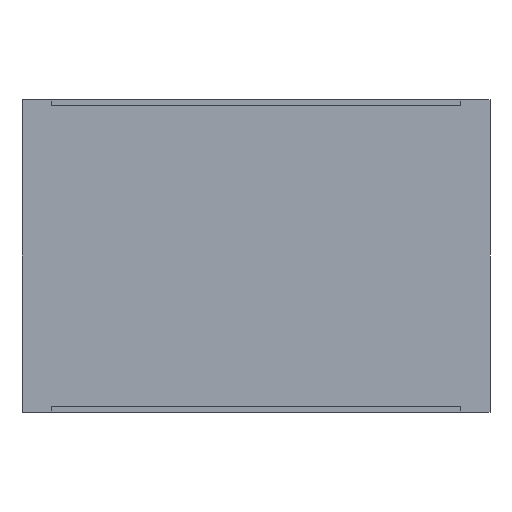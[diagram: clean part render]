
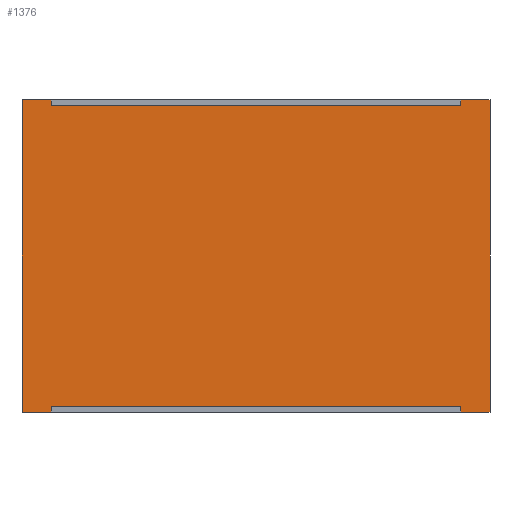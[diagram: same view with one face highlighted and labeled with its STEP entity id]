
A CAD part, front view. The second image highlights one B-rep face of the part: STEP entity #1376.
In plain terms, the highlighted planar face has unit normal (0, -1, 0).
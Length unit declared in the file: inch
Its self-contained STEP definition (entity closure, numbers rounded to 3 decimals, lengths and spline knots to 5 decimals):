
#3 = CARTESIAN_POINT ( 'NONE',  ( 1.47, 0., 0.3 ) ) ;
#4 = EDGE_CURVE ( 'NONE', #1760, #1749, #1766, .T. ) ;
#15 = DIRECTION ( 'NONE',  ( 0., 1., 0. ) ) ;
#28 = EDGE_CURVE ( 'NONE', #324, #1749, #850, .T. ) ;
#50 = CARTESIAN_POINT ( 'NONE',  ( 1.47, 0., 15.75 ) ) ;
#60 = CARTESIAN_POINT ( 'NONE',  ( 0., 0., 15.75 ) ) ;
#63 = DIRECTION ( 'NONE',  ( -1., 0., 0. ) ) ;
#76 = DIRECTION ( 'NONE',  ( 0., 0., -1. ) ) ;
#79 = VECTOR ( 'NONE', #602, 39.37008 ) ;
#112 = EDGE_CURVE ( 'NONE', #1516, #893, #1165, .T. ) ;
#132 = EDGE_CURVE ( 'NONE', #1230, #324, #672, .T. ) ;
#139 = EDGE_CURVE ( 'NONE', #731, #1760, #593, .T. ) ;
#145 = CARTESIAN_POINT ( 'NONE',  ( 1.47, 0., 15.45 ) ) ;
#152 = CARTESIAN_POINT ( 'NONE',  ( 0., 0., 0. ) ) ;
#158 = EDGE_CURVE ( 'NONE', #1665, #1643, #1786, .T. ) ;
#168 = VECTOR ( 'NONE', #1131, 39.37008 ) ;
#189 = LINE ( 'NONE', #145, #1472 ) ;
#205 = VERTEX_POINT ( 'NONE', #282 ) ;
#217 = EDGE_CURVE ( 'NONE', #1665, #893, #408, .T. ) ;
#247 = DIRECTION ( 'NONE',  ( 1., 0., 0. ) ) ;
#248 = EDGE_CURVE ( 'NONE', #1516, #884, #2042, .T. ) ;
#281 = ORIENTED_EDGE ( 'NONE', *, *, #638, .F. ) ;
#282 = CARTESIAN_POINT ( 'NONE',  ( 22.15, 0., 0. ) ) ;
#303 = EDGE_CURVE ( 'NONE', #884, #1697, #189, .T. ) ;
#320 = CARTESIAN_POINT ( 'NONE',  ( 0., 0., 0. ) ) ;
#324 = VERTEX_POINT ( 'NONE', #152 ) ;
#374 = EDGE_CURVE ( 'NONE', #1230, #1697, #422, .T. ) ;
#385 = ORIENTED_EDGE ( 'NONE', *, *, #303, .T. ) ;
#408 = LINE ( 'NONE', #1713, #771 ) ;
#422 = LINE ( 'NONE', #1203, #1243 ) ;
#456 = EDGE_CURVE ( 'NONE', #731, #205, #2032, .T. ) ;
#458 = CARTESIAN_POINT ( 'NONE',  ( 23.62, 0., 7.875 ) ) ;
#532 = CARTESIAN_POINT ( 'NONE',  ( 22.15, 0., 15.45 ) ) ;
#593 = LINE ( 'NONE', #1806, #921 ) ;
#602 = DIRECTION ( 'NONE',  ( 0., 0., -1. ) ) ;
#638 = EDGE_CURVE ( 'NONE', #1643, #205, #2012, .T. ) ;
#641 = CARTESIAN_POINT ( 'NONE',  ( 0., 0., 7.875 ) ) ;
#650 = CARTESIAN_POINT ( 'NONE',  ( 22.15, 0., 15.75 ) ) ;
#664 = ORIENTED_EDGE ( 'NONE', *, *, #132, .T. ) ;
#672 = LINE ( 'NONE', #641, #168 ) ;
#711 = FACE_OUTER_BOUND ( 'NONE', #2034, .T. ) ;
#731 = VERTEX_POINT ( 'NONE', #1204 ) ;
#738 = DIRECTION ( 'NONE',  ( 0., 0., 1. ) ) ;
#771 = VECTOR ( 'NONE', #2006, 39.37008 ) ;
#836 = CARTESIAN_POINT ( 'NONE',  ( 1.47, 0., 15.45 ) ) ;
#850 = LINE ( 'NONE', #320, #1295 ) ;
#884 = VERTEX_POINT ( 'NONE', #953 ) ;
#893 = VERTEX_POINT ( 'NONE', #650 ) ;
#921 = VECTOR ( 'NONE', #1520, 39.37008 ) ;
#922 = CARTESIAN_POINT ( 'NONE',  ( 0., 0., 7.875 ) ) ;
#953 = CARTESIAN_POINT ( 'NONE',  ( 1.47, 0., 15.45 ) ) ;
#1021 = DIRECTION ( 'NONE',  ( -1., 0., 0. ) ) ;
#1078 = AXIS2_PLACEMENT_3D ( 'NONE', #922, #15, #1113 ) ;
#1090 = ORIENTED_EDGE ( 'NONE', *, *, #248, .T. ) ;
#1091 = DIRECTION ( 'NONE',  ( 0., 0., -1. ) ) ;
#1094 = VECTOR ( 'NONE', #2021, 39.37008 ) ;
#1113 = DIRECTION ( 'NONE',  ( 0., 0., 1. ) ) ;
#1121 = ORIENTED_EDGE ( 'NONE', *, *, #217, .T. ) ;
#1131 = DIRECTION ( 'NONE',  ( 0., 0., -1. ) ) ;
#1148 = CARTESIAN_POINT ( 'NONE',  ( 23.62, 0., 0. ) ) ;
#1165 = LINE ( 'NONE', #1233, #1094 ) ;
#1193 = ORIENTED_EDGE ( 'NONE', *, *, #158, .F. ) ;
#1203 = CARTESIAN_POINT ( 'NONE',  ( 0., 0., 15.75 ) ) ;
#1204 = CARTESIAN_POINT ( 'NONE',  ( 22.15, 0., 0.3 ) ) ;
#1230 = VERTEX_POINT ( 'NONE', #60 ) ;
#1233 = CARTESIAN_POINT ( 'NONE',  ( 22.15, 0., 15.45 ) ) ;
#1243 = VECTOR ( 'NONE', #247, 39.37008 ) ;
#1295 = VECTOR ( 'NONE', #1771, 39.37008 ) ;
#1352 = VECTOR ( 'NONE', #1091, 39.37008 ) ;
#1376 = ADVANCED_FACE ( 'NONE', ( #711 ), #1785, .F. ) ;
#1448 = ORIENTED_EDGE ( 'NONE', *, *, #4, .F. ) ;
#1472 = VECTOR ( 'NONE', #738, 39.37008 ) ;
#1482 = VECTOR ( 'NONE', #76, 39.37008 ) ;
#1516 = VERTEX_POINT ( 'NONE', #532 ) ;
#1520 = DIRECTION ( 'NONE',  ( -1., 0., 0. ) ) ;
#1536 = ORIENTED_EDGE ( 'NONE', *, *, #112, .F. ) ;
#1618 = VECTOR ( 'NONE', #1021, 39.37008 ) ;
#1620 = VECTOR ( 'NONE', #63, 39.37008 ) ;
#1623 = ORIENTED_EDGE ( 'NONE', *, *, #456, .T. ) ;
#1643 = VERTEX_POINT ( 'NONE', #1148 ) ;
#1665 = VERTEX_POINT ( 'NONE', #1725 ) ;
#1666 = ORIENTED_EDGE ( 'NONE', *, *, #28, .T. ) ;
#1675 = CARTESIAN_POINT ( 'NONE',  ( 23.62, 0., 0. ) ) ;
#1692 = CARTESIAN_POINT ( 'NONE',  ( 1.47, 0., 0. ) ) ;
#1697 = VERTEX_POINT ( 'NONE', #50 ) ;
#1706 = CARTESIAN_POINT ( 'NONE',  ( 22.15, 0., 0.3 ) ) ;
#1713 = CARTESIAN_POINT ( 'NONE',  ( 23.62, 0., 15.75 ) ) ;
#1725 = CARTESIAN_POINT ( 'NONE',  ( 23.62, 0., 15.75 ) ) ;
#1749 = VERTEX_POINT ( 'NONE', #1692 ) ;
#1758 = ORIENTED_EDGE ( 'NONE', *, *, #139, .F. ) ;
#1760 = VERTEX_POINT ( 'NONE', #1982 ) ;
#1766 = LINE ( 'NONE', #3, #1352 ) ;
#1771 = DIRECTION ( 'NONE',  ( 1., 0., 0. ) ) ;
#1785 = PLANE ( 'NONE',  #1078 ) ;
#1786 = LINE ( 'NONE', #458, #79 ) ;
#1806 = CARTESIAN_POINT ( 'NONE',  ( 1.47, 0., 0.3 ) ) ;
#1865 = ORIENTED_EDGE ( 'NONE', *, *, #374, .F. ) ;
#1982 = CARTESIAN_POINT ( 'NONE',  ( 1.47, 0., 0.3 ) ) ;
#2006 = DIRECTION ( 'NONE',  ( -1., 0., 0. ) ) ;
#2012 = LINE ( 'NONE', #1675, #1620 ) ;
#2021 = DIRECTION ( 'NONE',  ( 0., 0., 1. ) ) ;
#2032 = LINE ( 'NONE', #1706, #1482 ) ;
#2034 = EDGE_LOOP ( 'NONE', ( #1666, #1448, #1758, #1623, #281, #1193, #1121, #1536, #1090, #385, #1865, #664 ) ) ;
#2042 = LINE ( 'NONE', #836, #1618 ) ;
